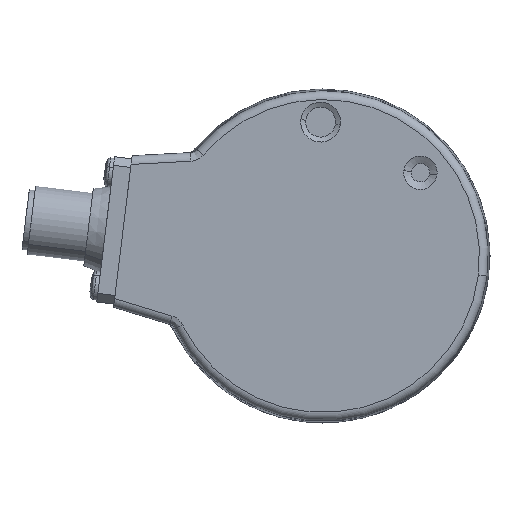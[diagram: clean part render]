
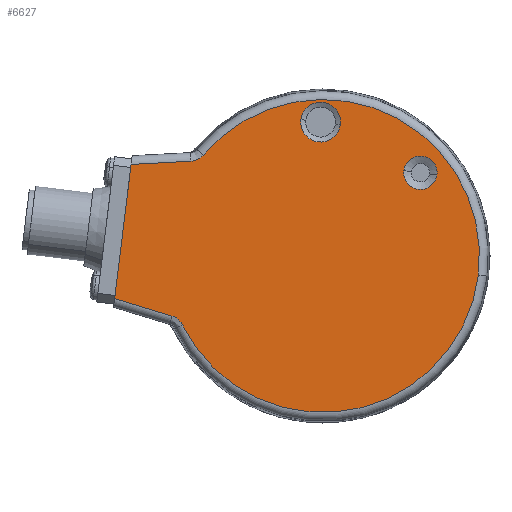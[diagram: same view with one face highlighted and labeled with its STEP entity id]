
A CAD part, left-side view. The second image highlights one B-rep face of the part: STEP entity #6627.
In plain terms, the highlighted planar face has unit normal (-1, 0, 0).
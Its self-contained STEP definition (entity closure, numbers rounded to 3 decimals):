
#242 = EDGE_CURVE ( 'NONE', #9536, #9493, #1122, .T. ) ;
#259 = EDGE_CURVE ( 'NONE', #395, #9473, #1296, .T. ) ;
#393 = EDGE_CURVE ( 'NONE', #6549, #6505, #2118, .T. ) ;
#395 = VERTEX_POINT ( 'NONE', #2114 ) ;
#406 = EDGE_CURVE ( 'NONE', #395, #6505, #2159, .T. ) ;
#1108 = CARTESIAN_POINT ( 'NONE',  ( -19., 21.376, 16.962 ) ) ;
#1109 = CARTESIAN_POINT ( 'NONE',  ( -19., 21.552, 16.851 ) ) ;
#1110 = CARTESIAN_POINT ( 'NONE',  ( -19., 21.917, 16.669 ) ) ;
#1111 = CARTESIAN_POINT ( 'NONE',  ( -19., 22.108, 16.597 ) ) ;
#1112 = CARTESIAN_POINT ( 'NONE',  ( -19., 22.503, 16.493 ) ) ;
#1113 = CARTESIAN_POINT ( 'NONE',  ( -19., 22.708, 16.461 ) ) ;
#1114 = CARTESIAN_POINT ( 'NONE',  ( -19., 22.914, 16.45 ) ) ;
#1122 = B_SPLINE_CURVE_WITH_KNOTS ( 'NONE', 3,
 ( #1114, #1113, #1112, #1111, #1110, #1109, #1108, #1187, #1186, #1185 ),
 .UNSPECIFIED., .F., .F.,
 ( 4, 2, 2, 2, 4 ),
 ( 0., 0.001, 0.001, 0.002, 0.002 ),
 .UNSPECIFIED. ) ;
#1185 = CARTESIAN_POINT ( 'NONE',  ( -19., 20.777, 17.512 ) ) ;
#1186 = CARTESIAN_POINT ( 'NONE',  ( -19., 20.91, 17.355 ) ) ;
#1187 = CARTESIAN_POINT ( 'NONE',  ( -19., 21.056, 17.213 ) ) ;
#1288 = DIRECTION ( 'NONE',  ( 0., -0.993, -0.122 ) ) ;
#1289 = DIRECTION ( 'NONE',  ( -1., 0., 0. ) ) ;
#1290 = CARTESIAN_POINT ( 'NONE',  ( -19., 0., 0. ) ) ;
#1291 = AXIS2_PLACEMENT_3D ( 'NONE', #1290, #1289, #1288 ) ;
#1296 = CIRCLE ( 'NONE', #1291, 27.173 ) ;
#2114 = CARTESIAN_POINT ( 'NONE',  ( -19., 24.396, -11.966 ) ) ;
#2115 = DIRECTION ( 'NONE',  ( 0., -0.956, -0.292 ) ) ;
#2116 = VECTOR ( 'NONE', #2115, 1000. ) ;
#2117 = CARTESIAN_POINT ( 'NONE',  ( -19., 25.556, -10.618 ) ) ;
#2118 = LINE ( 'NONE', #2117, #2116 ) ;
#2159 = B_SPLINE_CURVE_WITH_KNOTS ( 'NONE', 3,
 ( #2290, #2289, #2224, #2223, #2203, #2202, #2201, #2200, #2199, #2198 ),
 .UNSPECIFIED., .F., .F.,
 ( 4, 2, 2, 2, 4 ),
 ( 0., 0.001, 0.001, 0.002, 0.002 ),
 .UNSPECIFIED. ) ;
#2198 = CARTESIAN_POINT ( 'NONE',  ( -19., 26.213, -10.418 ) ) ;
#2199 = CARTESIAN_POINT ( 'NONE',  ( -19., 26.016, -10.478 ) ) ;
#2200 = CARTESIAN_POINT ( 'NONE',  ( -19., 25.828, -10.557 ) ) ;
#2201 = CARTESIAN_POINT ( 'NONE',  ( -19., 25.471, -10.753 ) ) ;
#2202 = CARTESIAN_POINT ( 'NONE',  ( -19., 25.3, -10.87 ) ) ;
#2203 = CARTESIAN_POINT ( 'NONE',  ( -19., 24.989, -11.135 ) ) ;
#2223 = CARTESIAN_POINT ( 'NONE',  ( -19., 24.848, -11.282 ) ) ;
#2224 = CARTESIAN_POINT ( 'NONE',  ( -19., 24.597, -11.605 ) ) ;
#2289 = CARTESIAN_POINT ( 'NONE',  ( -19., 24.487, -11.781 ) ) ;
#2290 = CARTESIAN_POINT ( 'NONE',  ( -19., 24.396, -11.966 ) ) ;
#2695 = CARTESIAN_POINT ( 'NONE',  ( -19., 33.31, 15.905 ) ) ;
#3133 = CARTESIAN_POINT ( 'NONE',  ( -19., 26.213, -10.418 ) ) ;
#3349 = CARTESIAN_POINT ( 'NONE',  ( -19., 36.168, -7.374 ) ) ;
#3350 = DIRECTION ( 'NONE',  ( 0., -0.122, 0.993 ) ) ;
#3351 = VECTOR ( 'NONE', #3350, 1000. ) ;
#3352 = CARTESIAN_POINT ( 'NONE',  ( -19., 36.354, -8.886 ) ) ;
#3353 = LINE ( 'NONE', #3352, #3351 ) ;
#3514 = DIRECTION ( 'NONE',  ( 0., -0.993, -0.122 ) ) ;
#3515 = DIRECTION ( 'NONE',  ( 1., 0., 0. ) ) ;
#3516 = CARTESIAN_POINT ( 'NONE',  ( -19., 0., 0. ) ) ;
#3517 = AXIS2_PLACEMENT_3D ( 'NONE', #3516, #3515, #3514 ) ;
#3518 = PLANE ( 'NONE',  #3517 ) ;
#3527 = DIRECTION ( 'NONE',  ( 0., -0.993, -0.122 ) ) ;
#3528 = DIRECTION ( 'NONE',  ( 1., 0., 0. ) ) ;
#3529 = CARTESIAN_POINT ( 'NONE',  ( -19., -16.919, 14.45 ) ) ;
#3530 = AXIS2_PLACEMENT_3D ( 'NONE', #3529, #3528, #3527 ) ;
#3531 = CIRCLE ( 'NONE', #3530, 2.899 ) ;
#3599 = FACE_BOUND ( 'NONE', #6626, .T. ) ;
#3600 = FACE_BOUND ( 'NONE', #6631, .T. ) ;
#3601 = DIRECTION ( 'NONE',  ( 0., -0.993, -0.122 ) ) ;
#3602 = DIRECTION ( 'NONE',  ( 1., 0., 0. ) ) ;
#3603 = CARTESIAN_POINT ( 'NONE',  ( -19., 0.406, 23.246 ) ) ;
#3604 = AXIS2_PLACEMENT_3D ( 'NONE', #3603, #3602, #3601 ) ;
#3605 = CIRCLE ( 'NONE', #3604, 3.466 ) ;
#3645 = FACE_OUTER_BOUND ( 'NONE', #6625, .T. ) ;
#5462 = ORIENTED_EDGE ( 'NONE', *, *, #242, .F. ) ;
#6495 = ORIENTED_EDGE ( 'NONE', *, *, #259, .T. ) ;
#6496 = ORIENTED_EDGE ( 'NONE', *, *, #406, .F. ) ;
#6499 = ORIENTED_EDGE ( 'NONE', *, *, #9554, .T. ) ;
#6501 = ORIENTED_EDGE ( 'NONE', *, *, #9437, .T. ) ;
#6502 = ORIENTED_EDGE ( 'NONE', *, *, #393, .T. ) ;
#6503 = ORIENTED_EDGE ( 'NONE', *, *, #6548, .F. ) ;
#6505 = VERTEX_POINT ( 'NONE', #3133 ) ;
#6548 = EDGE_CURVE ( 'NONE', #6549, #10053, #3353, .T. ) ;
#6549 = VERTEX_POINT ( 'NONE', #3349 ) ;
#6623 = ORIENTED_EDGE ( 'NONE', *, *, #8804, .T. ) ;
#6624 = EDGE_CURVE ( 'NONE', #8524, #8805, #3605, .T. ) ;
#6625 = EDGE_LOOP ( 'NONE', ( #5462, #6501, #6503, #6502, #6496, #6495, #6499 ) ) ;
#6626 = EDGE_LOOP ( 'NONE', ( #6623, #6628 ) ) ;
#6627 = ADVANCED_FACE ( 'NONE', ( #3600, #3599, #3645 ), #3518, .F. ) ;
#6628 = ORIENTED_EDGE ( 'NONE', *, *, #6624, .T. ) ;
#6629 = ORIENTED_EDGE ( 'NONE', *, *, #8991, .T. ) ;
#6630 = ORIENTED_EDGE ( 'NONE', *, *, #6667, .T. ) ;
#6631 = EDGE_LOOP ( 'NONE', ( #6629, #6630 ) ) ;
#6667 = EDGE_CURVE ( 'NONE', #8562, #9326, #3531, .T. ) ;
#8524 = VERTEX_POINT ( 'NONE', #10589 ) ;
#8562 = VERTEX_POINT ( 'NONE', #8634 ) ;
#8634 = CARTESIAN_POINT ( 'NONE',  ( -19., -19.796, 14.097 ) ) ;
#8672 = CARTESIAN_POINT ( 'NONE',  ( -19., 3.846, 23.669 ) ) ;
#8673 = DIRECTION ( 'NONE',  ( 0., -0.993, -0.122 ) ) ;
#8674 = DIRECTION ( 'NONE',  ( 1., 0., 0. ) ) ;
#8675 = CARTESIAN_POINT ( 'NONE',  ( -19., 0.406, 23.246 ) ) ;
#8676 = AXIS2_PLACEMENT_3D ( 'NONE', #8675, #8674, #8673 ) ;
#8677 = CIRCLE ( 'NONE', #8676, 3.466 ) ;
#8776 = DIRECTION ( 'NONE',  ( 0., -0.993, -0.122 ) ) ;
#8777 = DIRECTION ( 'NONE',  ( 1., 0., 0. ) ) ;
#8778 = CARTESIAN_POINT ( 'NONE',  ( -19., -16.919, 14.45 ) ) ;
#8779 = AXIS2_PLACEMENT_3D ( 'NONE', #8778, #8777, #8776 ) ;
#8780 = CIRCLE ( 'NONE', #8779, 2.899 ) ;
#8804 = EDGE_CURVE ( 'NONE', #8805, #8524, #8677, .T. ) ;
#8805 = VERTEX_POINT ( 'NONE', #8672 ) ;
#8933 = CARTESIAN_POINT ( 'NONE',  ( -19., -14.042, 14.804 ) ) ;
#8991 = EDGE_CURVE ( 'NONE', #9326, #8562, #8780, .T. ) ;
#9113 = LINE ( 'NONE', #9164, #9163 ) ;
#9141 = DIRECTION ( 'NONE',  ( 0., -0.993, -0.122 ) ) ;
#9142 = DIRECTION ( 'NONE',  ( -1., 0., 0. ) ) ;
#9143 = CARTESIAN_POINT ( 'NONE',  ( -19., 0., 0. ) ) ;
#9144 = AXIS2_PLACEMENT_3D ( 'NONE', #9143, #9142, #9141 ) ;
#9145 = CIRCLE ( 'NONE', #9144, 27.173 ) ;
#9146 = CARTESIAN_POINT ( 'NONE',  ( -19., 22.914, 16.45 ) ) ;
#9159 = CARTESIAN_POINT ( 'NONE',  ( -19., -26.97, -3.312 ) ) ;
#9161 = CARTESIAN_POINT ( 'NONE',  ( -19., 20.777, 17.512 ) ) ;
#9162 = DIRECTION ( 'NONE',  ( 0., 0.999, -0.052 ) ) ;
#9163 = VECTOR ( 'NONE', #9162, 1000. ) ;
#9164 = CARTESIAN_POINT ( 'NONE',  ( -19., 33.046, 15.919 ) ) ;
#9326 = VERTEX_POINT ( 'NONE', #8933 ) ;
#9437 = EDGE_CURVE ( 'NONE', #9536, #10053, #9113, .T. ) ;
#9473 = VERTEX_POINT ( 'NONE', #9159 ) ;
#9493 = VERTEX_POINT ( 'NONE', #9161 ) ;
#9536 = VERTEX_POINT ( 'NONE', #9146 ) ;
#9554 = EDGE_CURVE ( 'NONE', #9473, #9493, #9145, .T. ) ;
#10053 = VERTEX_POINT ( 'NONE', #2695 ) ;
#10589 = CARTESIAN_POINT ( 'NONE',  ( -19., -3.034, 22.824 ) ) ;
